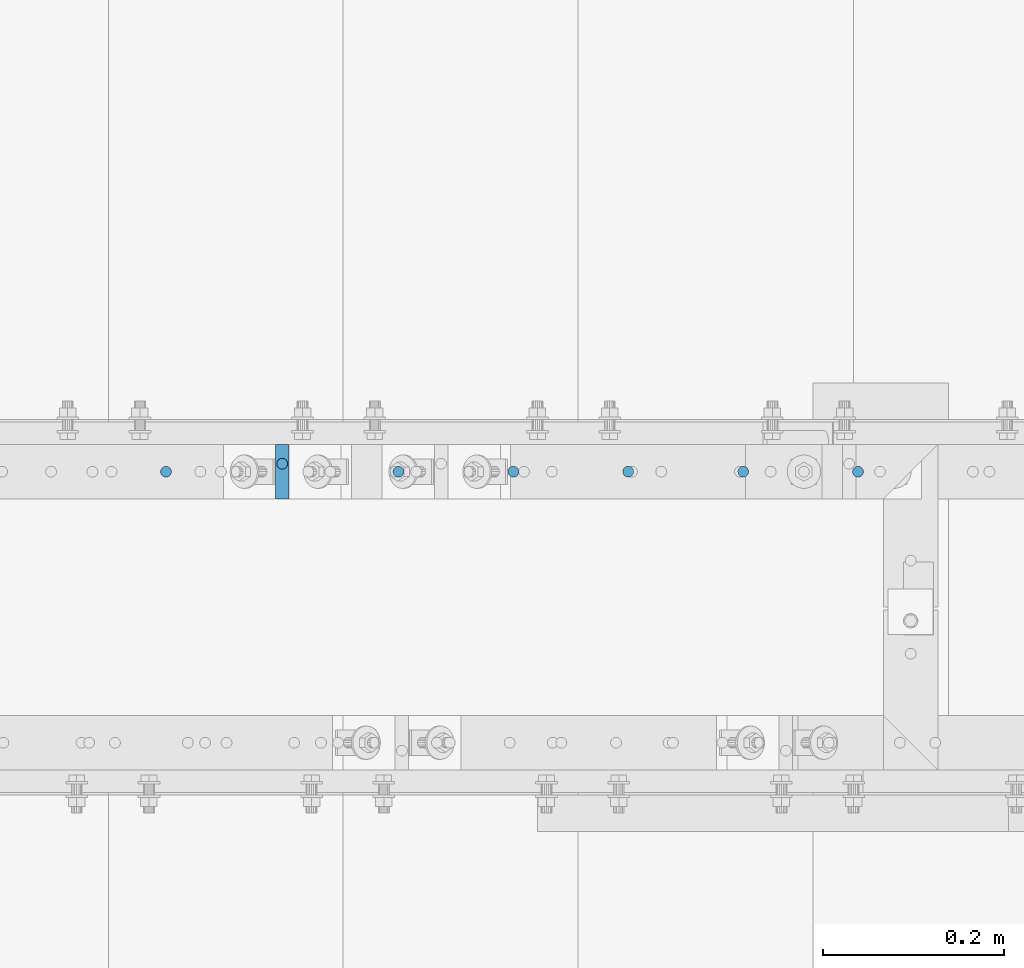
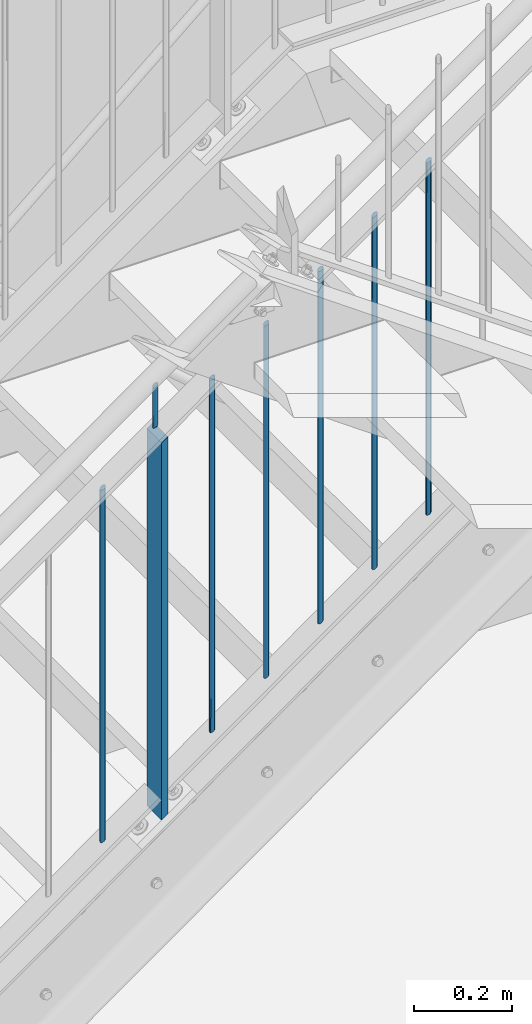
# One storey, part 53 of 825: 8 columns.
"""IFC2X3 building model written with IfcOpenShell, lengths in millimetres."""

from ifc_helpers import new_model, entity, si_unit, converted_unit, frame, origin, origin_with_axes, origin_2d, place, context, project, spatial, rectangle, circle, extrude, clip, halfspace, material, element, save


model = new_model("IFC2X3")

# Units and contexts
model_context = context("Model", 3, precision=1e-09, world=origin_with_axes())
ifc_project = project(units=[si_unit("LENGTHUNIT", "METRE", prefix="MILLI"), si_unit("AREAUNIT", "SQUARE_METRE"), si_unit("VOLUMEUNIT", "CUBIC_METRE"), converted_unit("PLANEANGLEUNIT", "DEGREE", entity("IfcPlaneAngleMeasure", 0.01745329), si_unit("PLANEANGLEUNIT", "RADIAN"), dimensions=[0, 0, 0, 0, 0, 0, 0])], contexts=[model_context])

# Site, building, storey
site_placement = place(None, origin_with_axes())
site = spatial("IfcSite", under=ifc_project, at=site_placement, Name="Cnopf'sche Kinderklinik", CompositionType="ELEMENT")
building_placement = place(site_placement, origin_with_axes())
building = spatial("IfcBuilding", under=site, at=building_placement, Name="Struktur 1", CompositionType="ELEMENT")
storey_placement = place(building_placement, origin_with_axes())
storey = spatial("IfcBuildingStorey", under=building, at=storey_placement, Name="Default Storey", CompositionType="ELEMENT", Elevation=0.0)

# Columns
ifc_material = material(Name="S235JR")
column_1_placement = place(None, frame((6469.21411348, 6091.736971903, 2432.236239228), z_axis=(0.0, 0.0, 1.0), x_axis=(1.0, 0.0, 0.0)))
element("IfcColumn", 1, at=column_1_placement, inside=storey, material=ifc_material, Name="Railing_Post_Stair#1", ObjectType="Railing_Post_Stair#1", context=model_context, shape_type="Clipping", body=[
    clip(clip(extrude(rectangle(XDim=15.0, YDim=60.0, at=origin_2d()), origin(), (0.0, 0.0, -1.0), 1013.069146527), halfspace(frame((-4981.610947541, -6091.736971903, -4521.732866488), z_axis=(-0.579973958, 0.0, 0.814635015), x_axis=(0.0, -1.0, 0.0)), True)), halfspace(frame((-5424.382214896, -6091.736971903, -3899.813599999), z_axis=(0.579973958, 0.0, -0.814635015), x_axis=(0.0, 1.0, 0.0)), True)),
])
column_2_placement = place(None, frame((6340.54411348, 6091.736971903, 2313.086855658), z_axis=(0.0, 0.0, 1.0), x_axis=(1.0, 0.0, 0.0)))
element("IfcColumn", 2, at=column_2_placement, inside=storey, material=ifc_material, Name="Railing_Picket_Stair#7", ObjectType="Railing_Picket_Stair#7", context=model_context, shape_type="Clipping", body=[
    clip(clip(extrude(circle(Radius=6.0, at=origin_2d()), origin(), (0.0, 0.0, -1.0), 896.604693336), halfspace(frame((-5295.712214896, -6091.736971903, -3780.66421643), z_axis=(0.579973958, 0.0, -0.814635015), x_axis=(0.0, 1.0, 0.0)), True)), halfspace(frame((-4881.939645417, -6091.736971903, -4361.851732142), z_axis=(-0.579973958, 0.0, 0.814635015), x_axis=(0.0, -1.0, 0.0)), True)),
])
column_3_placement = place(None, frame((6597.88411348, 6091.736971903, 2496.298349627), z_axis=(0.0, 0.0, 1.0), x_axis=(1.0, 0.0, 0.0)))
element("IfcColumn", 3, at=column_3_placement, inside=storey, material=ifc_material, Name="Railing_Picket_Stair#8", ObjectType="Railing_Picket_Stair#8", context=model_context, shape_type="Clipping", body=[
    clip(clip(extrude(circle(Radius=6.0, at=origin_2d()), origin(), (0.0, 0.0, -1.0), 896.604693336), halfspace(frame((-5553.052214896, -6091.736971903, -3963.875710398), z_axis=(0.579973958, 0.0, -0.814635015), x_axis=(0.0, 1.0, 0.0)), True)), halfspace(frame((-5139.279645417, -6091.736971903, -4545.063226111), z_axis=(-0.579973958, 0.0, 0.814635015), x_axis=(0.0, -1.0, 0.0)), True)),
])
column_4_placement = place(None, frame((6725.049797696, 6091.736971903, 2586.833109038), z_axis=(0.0, 0.0, 1.0), x_axis=(1.0, 0.0, 0.0)))
element("IfcColumn", 4, at=column_4_placement, inside=storey, material=ifc_material, Name="Railing_Picket_Stair#9", ObjectType="Railing_Picket_Stair#9", context=model_context, shape_type="Clipping", body=[
    clip(clip(extrude(circle(Radius=6.0, at=origin_2d()), origin(), (0.0, 0.0, -1.0), 896.604693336), halfspace(frame((-5680.217899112, -6091.736971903, -4054.410469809), z_axis=(0.579973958, 0.0, -0.814635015), x_axis=(0.0, 1.0, 0.0)), True)), halfspace(frame((-5266.445329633, -6091.736971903, -4635.597985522), z_axis=(-0.579973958, 0.0, 0.814635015), x_axis=(0.0, -1.0, 0.0)), True)),
])
column_5_placement = place(None, frame((6852.215481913, 6091.736971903, 2677.367868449), z_axis=(0.0, 0.0, 1.0), x_axis=(1.0, 0.0, 0.0)))
element("IfcColumn", 5, at=column_5_placement, inside=storey, material=ifc_material, Name="Railing_Picket_Stair#10", ObjectType="Railing_Picket_Stair#10", context=model_context, shape_type="Clipping", body=[
    clip(clip(extrude(circle(Radius=6.0, at=origin_2d()), origin(), (0.0, 0.0, -1.0), 896.604693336), halfspace(frame((-5807.383583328, -6091.736971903, -4144.94522922), z_axis=(0.579973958, 0.0, -0.814635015), x_axis=(0.0, 1.0, 0.0)), True)), halfspace(frame((-5393.611013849, -6091.736971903, -4726.132744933), z_axis=(-0.579973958, 0.0, 0.814635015), x_axis=(0.0, -1.0, 0.0)), True)),
])
column_6_placement = place(None, frame((6979.381166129, 6091.736971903, 2767.90262786), z_axis=(0.0, 0.0, 1.0), x_axis=(1.0, 0.0, 0.0)))
element("IfcColumn", 6, at=column_6_placement, inside=storey, material=ifc_material, Name="Railing_Picket_Stair#11", ObjectType="Railing_Picket_Stair#11", context=model_context, shape_type="Clipping", body=[
    clip(clip(extrude(circle(Radius=6.0, at=origin_2d()), origin(), (0.0, 0.0, -1.0), 896.604693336), halfspace(frame((-5934.549267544, -6091.736971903, -4235.479988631), z_axis=(0.579973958, 0.0, -0.814635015), x_axis=(0.0, 1.0, 0.0)), True)), halfspace(frame((-5520.776698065, -6091.736971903, -4816.667504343), z_axis=(-0.579973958, 0.0, 0.814635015), x_axis=(0.0, -1.0, 0.0)), True)),
])
column_7_placement = place(None, frame((7106.546850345, 6091.736971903, 2858.437387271), z_axis=(0.0, 0.0, 1.0), x_axis=(1.0, 0.0, 0.0)))
element("IfcColumn", 7, at=column_7_placement, inside=storey, material=ifc_material, Name="Railing_Picket_Stair#12", ObjectType="Railing_Picket_Stair#12", context=model_context, shape_type="Clipping", body=[
    clip(clip(extrude(circle(Radius=6.0, at=origin_2d()), origin(), (0.0, 0.0, -1.0), 896.604693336), halfspace(frame((-6061.71495176, -6091.736971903, -4326.014748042), z_axis=(0.579973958, 0.0, -0.814635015), x_axis=(0.0, 1.0, 0.0)), True)), halfspace(frame((-5647.942382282, -6091.736971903, -4907.202263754), z_axis=(-0.579973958, 0.0, 0.814635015), x_axis=(0.0, -1.0, 0.0)), True)),
])
column_8_placement = place(None, frame((6469.21411348, 6100.536971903, 2516.968038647), z_axis=(0.0, 0.0, 1.0), x_axis=(0.0, -1.0, 0.0)))
element("IfcColumn", 8, at=column_8_placement, inside=storey, material=ifc_material, Name="Bar#1", ObjectType="Bar#1", context=model_context, shape_type="Clipping", body=[
    clip(clip(extrude(circle(Radius=6.0, at=origin_2d()), origin(), (0.0, 0.0, -1.0), 120.832105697), halfspace(frame((6100.536971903, -5430.183114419, -3976.397419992), z_axis=(0.0, -0.579973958, 0.814635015), x_axis=(1.0, 0.0, 0.0)), True)), halfspace(frame((6100.536971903, -5477.428663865, -3910.036028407), z_axis=(0.0, 0.579973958, -0.814635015), x_axis=(-1.0, 0.0, 0.0)), True)),
])

save(model, "model.ifc")
